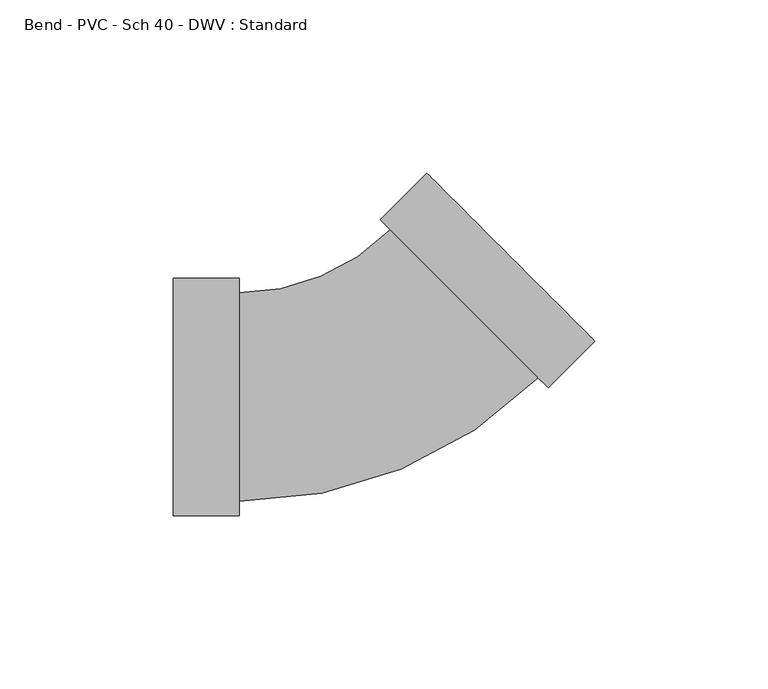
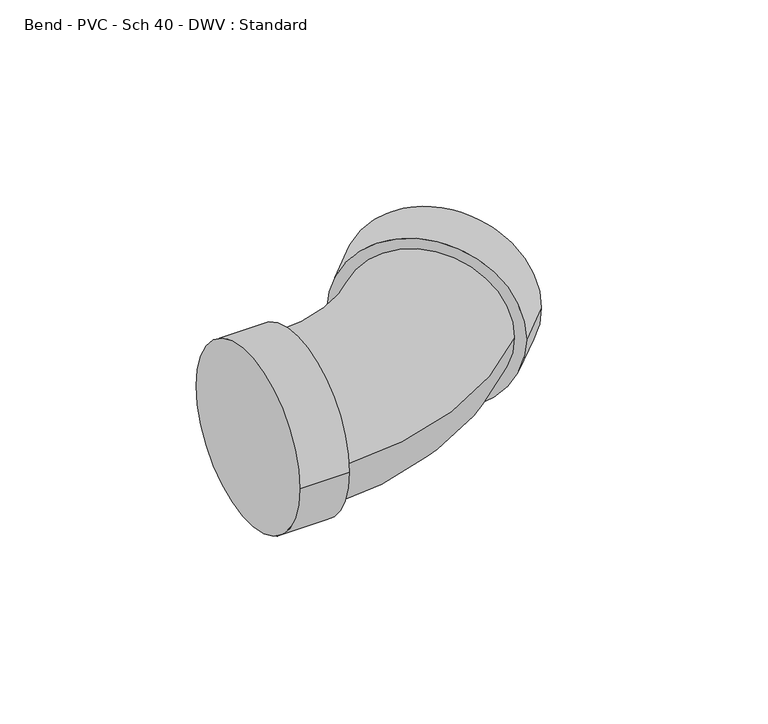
"""IFC4 building model written with IfcOpenShell, lengths in millimetres: pipe fitting geometry, Bend - PVC - Sch 40 - DWV : Standard."""

import ifcopenshell
import ifcopenshell.guid

model = None  # the IFC model being written
_history = None  # IfcOwnerHistory: only IFC2X3 demands one
_inside = {}  # id of a spatial element -> (the spatial element, [elements in it])
_under = {}  # id of a project, library or spatial element -> (it, [spatial elements below it])
_declared = {}  # id of a project -> (the project, [libraries it declares])
_typed = {}  # id of a type object -> (the type object, [elements of that type])
_made_of = {}  # id of a material, layer set ... -> (it, [elements and type objects made of it])


def new_model(schema):
    """Start an empty IFC model of exactly this schema.

    Asked for "IFC4X3", IfcOpenShell would pick the latest addendum, in which some entities
    have other attributes; the version numbers below select the first issue.
    IFC2X3 requires an IfcOwnerHistory on every rooted entity: one is made here for all.
    """
    global model, _history
    if schema == "IFC4X3":
        model = ifcopenshell.file(schema_version=(4, 3, 0, 0))
    else:
        model = ifcopenshell.file(schema=schema)
    _inside.clear()
    _under.clear()
    _declared.clear()
    _typed.clear()
    _made_of.clear()
    _history = None
    if model.schema == "IFC2X3":
        org = make("IfcOrganization", Name="unknown")
        user = make(
            "IfcPersonAndOrganization",
            ThePerson=make("IfcPerson", FamilyName="unknown"),
            TheOrganization=org,
        )
        app = make(
            "IfcApplication",
            ApplicationDeveloper=org,
            Version="unknown",
            ApplicationFullName="unknown",
            ApplicationIdentifier="unknown",
        )
        _history = make(
            "IfcOwnerHistory",
            OwningUser=user,
            OwningApplication=app,
            ChangeAction="ADDED",
            CreationDate=0,
        )
    return model


def make(cls, **values):
    """One entity of the class cls with the attributes given. An attribute that is None is left unset."""
    return model.create_entity(
        cls, **{name: value for name, value in values.items() if value is not None}
    )


def rooted(cls, **values):
    """An entity with a GlobalId (a new one), such as an element, a storey or a relation."""
    return make(cls, GlobalId=ifcopenshell.guid.new(), OwnerHistory=_history, **values)


def si_unit(unit_type, name, prefix=None):
    """IfcSIUnit, for example si_unit("LENGTHUNIT", "METRE", prefix="MILLI")."""
    return make("IfcSIUnit", UnitType=unit_type, Prefix=prefix, Name=name)


def assignment(units):
    """IfcUnitAssignment: the units of a project."""
    return None if units is None else make("IfcUnitAssignment", Units=units)


def point(xyz):
    """IfcCartesianPoint."""
    return None if xyz is None else make("IfcCartesianPoint", Coordinates=xyz)


def direction(xyz):
    """IfcDirection."""
    return None if xyz is None else make("IfcDirection", DirectionRatios=xyz)


def frame(location, z_axis=None, x_axis=None):
    """IfcAxis2Placement3D, a coordinate frame: its origin and axes. An axis left out is left unset."""
    return make(
        "IfcAxis2Placement3D",
        Location=point(location),
        Axis=direction(z_axis),
        RefDirection=direction(x_axis),
    )


def origin():
    """The frame at (0, 0, 0) with its axes left unset."""
    return frame((0.0, 0.0, 0.0))


def place(relative_to, where):
    """IfcLocalPlacement: puts the frame where relative to a parent placement (None: the world)."""
    return make(
        "IfcLocalPlacement", PlacementRelTo=relative_to, RelativePlacement=where
    )


def context(
    kind, dimensions, precision=None, world=None, true_north=None, identifier=None
):
    """IfcGeometricRepresentationContext, for example the 3D "Model" context."""
    return make(
        "IfcGeometricRepresentationContext",
        ContextIdentifier=identifier,
        ContextType=kind,
        CoordinateSpaceDimension=dimensions,
        Precision=precision,
        WorldCoordinateSystem=world,
        TrueNorth=true_north,
    )


def project(units=None, contexts=None):
    """IfcProject with its units and contexts."""
    return rooted(
        "IfcProject",
        Name="project",
        RepresentationContexts=contexts,
        UnitsInContext=assignment(units),
    )


def spatial(cls, under=None, at=None, **own):
    """A site, building, storey or space (cls), placed at a placement, below another one or the project."""
    s = rooted(cls, ObjectPlacement=at, **own)
    if under is not None:
        _under.setdefault(under.id(), (under, []))[1].append(s)
    return s


def circle_curve(where, radius):
    """IfcCircle in the frame where."""
    return make("IfcCircle", Position=where, Radius=radius)


def ellipse_curve(where, semi_axis1, semi_axis2):
    """IfcEllipse in the frame where."""
    return make(
        "IfcEllipse", Position=where, SemiAxis1=semi_axis1, SemiAxis2=semi_axis2
    )


def trimmed(basis, trim1, trim2, sense, master):
    """IfcTrimmedCurve: the piece of a basis curve between two trims."""
    return make(
        "IfcTrimmedCurve",
        BasisCurve=basis,
        Trim1=trim1,
        Trim2=trim2,
        SenseAgreement=sense,
        MasterRepresentation=master,
    )


def shape(context_of_items, identifier, shape_type, items):
    """IfcShapeRepresentation: the items that make up one representation, for example the "Body"."""
    return make(
        "IfcShapeRepresentation",
        ContextOfItems=context_of_items,
        RepresentationIdentifier=identifier,
        RepresentationType=shape_type,
        Items=items,
    )


def source(mapping_origin, context_of_items, identifier, shape_type, items):
    """IfcRepresentationMap: a shape defined once, which mapped items show again and again."""
    return make(
        "IfcRepresentationMap",
        MappingOrigin=mapping_origin,
        MappedRepresentation=shape(context_of_items, identifier, shape_type, items),
    )


def transform(
    local_origin,
    x_axis=None,
    y_axis=None,
    z_axis=None,
    scale=None,
    scale2=None,
    scale3=None,
    uniform=True,
):
    """IfcCartesianTransformationOperator3D, or its non-uniform kind. x_axis, y_axis, z_axis: its Axis1, 2, 3."""
    if uniform:
        return make(
            "IfcCartesianTransformationOperator3D",
            Axis1=direction(x_axis),
            Axis2=direction(y_axis),
            LocalOrigin=point(local_origin),
            Scale=scale,
            Axis3=direction(z_axis),
        )
    return make(
        "IfcCartesianTransformationOperator3DnonUniform",
        Axis1=direction(x_axis),
        Axis2=direction(y_axis),
        LocalOrigin=point(local_origin),
        Scale=scale,
        Axis3=direction(z_axis),
        Scale2=scale2,
        Scale3=scale3,
    )


def mapped(mapping_source, mapping_target):
    """IfcMappedItem: shows the shape of a source again, moved by a transform."""
    return make(
        "IfcMappedItem", MappingSource=mapping_source, MappingTarget=mapping_target
    )


def made_of(thing, what):
    """Note that an element or type object is made of a material, layer set ...; save() writes the relation."""
    if what is not None:
        _made_of.setdefault(what.id(), (what, []))[1].append(thing)
    return thing


def element(
    cls,
    number,
    at=None,
    inside=None,
    cuts=None,
    type_object=None,
    material=None,
    context=None,
    identifier="Body",
    shape_type=None,
    held_by="IfcProductDefinitionShape",
    body=None,
    shapes=None,
    **own,
):
    """One element of the class cls, such as IfcWall. Its Tag is "e" and its number.

    at: its placement. inside: the storey or other place that contains it. cuts: it is an
    opening in that element (IfcRelVoidsElement). A single representation is given by context,
    identifier, shape_type and body (its items); several are given by shapes. held_by: the class
    of the entity that holds the representations. save() writes the other relations.
    """
    e = rooted(cls, Tag="e%d" % number, ObjectPlacement=at, **own)
    if body is not None:
        shapes = [shape(context, identifier, shape_type, body)]
    if shapes is not None:
        e.Representation = make(held_by, Representations=shapes)
    if inside is not None:
        _inside.setdefault(inside.id(), (inside, []))[1].append(e)
    if cuts is not None:
        rooted(
            "IfcRelVoidsElement", RelatingBuildingElement=cuts, RelatedOpeningElement=e
        )
    if type_object is not None:
        _typed.setdefault(type_object.id(), (type_object, []))[1].append(e)
    return made_of(e, material)


def aggregate(whole, parts):
    """IfcRelAggregates: a whole, such as a stair, and the parts it consists of."""
    return rooted("IfcRelAggregates", RelatingObject=whole, RelatedObjects=parts)


def save(model, path):
    """Write the relations noted so far, then the file.

    IfcRelAggregates (storeys below a building ...), IfcRelContainedInSpatialStructure (elements
    in a storey), IfcRelDefinesByType, IfcRelAssociatesMaterial and IfcRelDeclares: one each for
    every whole, place, type object, material and project.
    """
    for whole, parts in _under.values():
        aggregate(whole, parts)
    for where, things in _inside.values():
        rooted(
            "IfcRelContainedInSpatialStructure",
            RelatedElements=things,
            RelatingStructure=where,
        )
    for kind, things in _typed.values():
        rooted("IfcRelDefinesByType", RelatedObjects=things, RelatingType=kind)
    for what, things in _made_of.values():
        rooted("IfcRelAssociatesMaterial", RelatedObjects=things, RelatingMaterial=what)
    for by, libraries in _declared.values():
        rooted("IfcRelDeclares", RelatingContext=by, RelatedDefinitions=libraries)
    model.write(path)


def plane_surface(at):
    """IfcPlane: the flat surface through the origin of the frame at, square to its z axis."""
    return make("IfcPlane", Position=at)


def cylinder_surface(at, radius):
    """IfcCylindricalSurface: all points at the distance radius from the z axis of the frame at."""
    return make("IfcCylindricalSurface", Position=at, Radius=radius)


def revolved_surface(curve, axis_point, axis_direction):
    """IfcSurfaceOfRevolution: the curve turned about the line through axis_point along axis_direction."""
    return make(
        "IfcSurfaceOfRevolution",
        SweptCurve=make("IfcArbitraryOpenProfileDef", ProfileType="CURVE", Curve=curve),
        AxisPosition=make("IfcAxis1Placement", Location=point(axis_point), Axis=direction(axis_direction)),
    )


def advanced_brep(points, edges, surfaces, faces):
    """IfcAdvancedBrep: a solid bounded by faces that lie on surfaces and meet in shared edges.

    An edge is (start, end): straight between two places in points (the first is 0);
    or (start, end, curve); or (start, end, curve, False) where it runs against its curve.
    A face is (place in surfaces, loops), or (place, loops, False) where it looks against
    its surface's normal. A loop lists edges by number (the first is 1), with a minus sign
    where the edge is run from its end to its start. The first loop is the outer one.
    """
    corners = [point(p) for p in points]
    vertices = [make("IfcVertexPoint", VertexGeometry=c) for c in corners]
    made = []
    for start, end, *more in edges:
        made.append(
            make(
                "IfcEdgeCurve",
                EdgeStart=vertices[start],
                EdgeEnd=vertices[end],
                EdgeGeometry=more[0] if more else make("IfcPolyline", Points=[corners[start], corners[end]]),
                SameSense=more[1] if len(more) > 1 else True,
            )
        )
    hull = []
    for where, loops, *sense in faces:
        bounds = []
        for j, loop in enumerate(loops):
            ring = [make("IfcOrientedEdge", EdgeElement=made[abs(k) - 1], Orientation=k > 0) for k in loop]
            bounds.append(
                make(
                    "IfcFaceOuterBound" if j == 0 else "IfcFaceBound",
                    Bound=make("IfcEdgeLoop", EdgeList=ring),
                    Orientation=True,
                )
            )
        hull.append(make("IfcAdvancedFace", Bounds=bounds, FaceSurface=surfaces[where], SameSense=sense[0] if sense else True))
    return make("IfcAdvancedBrep", Outer=make("IfcClosedShell", CfsFaces=hull))


def bend_pvc_sch_40_dwv_standard_614e1da6(model_context):
    return source(origin(), model_context, "Body", "AdvancedBrep", [
        advanced_brep(
        [(-57.15, -34.3154, 0.0), (-57.15, 34.3154, 0.0), (-38.1, -34.3154, 0.0), (-38.1, 34.3154, 0.0), (-38.1, -30.1625, 0.0), (-38.1, 30.1625, 0.0), (5.6143444, 48.2686808, 0.0), (48.2690725, 5.6109757, 0.0), (51.2055138, 2.6743295, 0.0), (2.6779032, 51.205327, 0.0), (64.676368, 16.1442436, 0.0), (16.1487574, 64.6752411, 0.0)],
        [
            (0, 1, circle_curve(frame((-57.15, 0.0, 0.0), z_axis=(-1.0, 0.0, 0.0), x_axis=(0.0, 1.0, 0.0)), 34.3154)),
            (1, 0, circle_curve(frame((-57.15, 0.0, 0.0), z_axis=(-1.0, 0.0, 0.0), x_axis=(0.0, 1.0, 0.0)), 34.3154)),
            (2, 3, circle_curve(frame((-38.1, 0.0, 0.0), z_axis=(1.0, 0.0, 0.0), x_axis=(0.0, 1.0, 0.0)), 34.3154)),
            (3, 2, circle_curve(frame((-38.1, 0.0, 0.0), z_axis=(1.0, 0.0, 0.0), x_axis=(0.0, 1.0, 0.0)), 34.3154)),
            (4, 5, circle_curve(frame((-38.1, 0.0, 0.0), z_axis=(-1.0, 0.0, 0.0), x_axis=(0.0, 1.0, 0.0)), 30.1625)),
            (5, 4, circle_curve(frame((-38.1, 0.0, 0.0), z_axis=(-1.0, 0.0, 0.0), x_axis=(0.0, 1.0, 0.0)), 30.1625)),
            (0, 2),
            (3, 1),
            (6, 5, circle_curve(frame((-38.1, 91.9860762, 0.0), z_axis=(0.0, 0.0, -1.0), x_axis=(0.0, -1.0, 0.0)), 61.8235762)),
            (4, 7, circle_curve(frame((-38.1, 91.9860762, 0.0), z_axis=(0.0, 0.0, 1.0), x_axis=(0.0, -1.0, 0.0)), 122.1485762)),
            (7, 6, circle_curve(frame((26.9417085, 26.9398282, 0.0), z_axis=(-0.7071314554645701, -0.7070821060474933, 0.0), x_axis=(-0.7070821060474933, 0.7071314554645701, 0.0)), 30.1625)),
            (6, 7, circle_curve(frame((26.9417085, 26.9398282, 0.0), z_axis=(-0.7071314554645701, -0.7070821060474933, 0.0), x_axis=(-0.7070821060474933, 0.7071314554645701, 0.0)), 30.1625)),
            (8, 9, circle_curve(frame((26.9417085, 26.9398282, 0.0), z_axis=(-0.7071314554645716, -0.7070821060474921, 0.0), x_axis=(-0.7070821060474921, 0.7071314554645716, 0.0)), 34.3154)),
            (9, 8, circle_curve(frame((26.9417085, 26.9398282, 0.0), z_axis=(-0.7071314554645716, -0.7070821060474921, 0.0), x_axis=(-0.7070821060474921, 0.7071314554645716, 0.0)), 34.3154)),
            (10, 11, circle_curve(frame((40.4125627, 40.4097424, 0.0), z_axis=(0.7071314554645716, 0.7070821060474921, 0.0), x_axis=(-0.7070821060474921, 0.7071314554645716, 0.0)), 34.3154)),
            (11, 10, circle_curve(frame((40.4125627, 40.4097424, 0.0), z_axis=(0.7071314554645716, 0.7070821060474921, 0.0), x_axis=(-0.7070821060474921, 0.7071314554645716, 0.0)), 34.3154)),
            (8, 10),
            (11, 9),
        ],
        [
            plane_surface(frame((-57.15, 0.0, 0.0), z_axis=(-1.0, 0.0, 0.0), x_axis=(0.0, 0.0, 1.0))),
            plane_surface(frame((-38.1, 0.0, 0.0), z_axis=(1.0, 0.0, 0.0), x_axis=(0.0, 0.0, 1.0))),
            cylinder_surface(frame((-57.15, 0.0, 0.0), z_axis=(-1.0, 0.0, 0.0), x_axis=(0.0, 1.0, 0.0)), 34.3154),
            revolved_surface(trimmed(ellipse_curve(frame((-38.1, 0.0, 0.0), z_axis=(-1.0, 0.0, 0.0), x_axis=(0.0, 1.0, 0.0)), 30.1625, 30.1625), [point((-38.1, -30.1625, 0.0))], [point((-38.1, 30.1625, 0.0))], True, "CARTESIAN"), (-38.1, 91.9860762, 0.0), (0.0, 0.0, 1.0)),
            revolved_surface(trimmed(ellipse_curve(frame((-38.1, 0.0, 0.0), z_axis=(-1.0, 0.0, 0.0), x_axis=(0.0, 1.0, 0.0)), 30.1625, 30.1625), [point((-38.1, 30.1625, 0.0))], [point((-38.1, -30.1625, 0.0))], True, "CARTESIAN"), (-38.1, 91.9860762, 0.0), (0.0, 0.0, 1.0)),
            plane_surface(frame((26.9417085, 26.9398282, 0.0), z_axis=(-0.7071314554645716, -0.7070821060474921, 0.0), x_axis=(0.0, 0.0, 1.0))),
            plane_surface(frame((40.4125627, 40.4097424, 0.0), z_axis=(0.7071314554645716, 0.7070821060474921, 0.0), x_axis=(0.0, 0.0, 1.0))),
            cylinder_surface(frame((26.9417085, 26.9398282, 0.0), z_axis=(-0.7071314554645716, -0.7070821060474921, 0.0), x_axis=(-0.7070821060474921, 0.7071314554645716, 0.0)), 34.3154),
        ],
        [
            (0, [[1, 2]]),
            (1, [[3, 4], [5, 6]]),
            (2, [[-1, 7, -4, 8]]),
            (2, [[-2, -8, -3, -7]]),
            (3, [[9, -5, 10, 11]]),
            (4, [[-9, 12, -10, -6]]),
            (5, [[13, 14], [-11, -12]]),
            (6, [[15, 16]]),
            (7, [[-13, 17, -16, 18]]),
            (7, [[-14, -18, -15, -17]]),
        ],
    ),
    ])


if __name__ == "__main__":
    model = new_model("IFC4")
    model_context = context("Model", 3, world=origin())
    ifc_project = project(units=[si_unit("LENGTHUNIT", "METRE", prefix="MILLI")], contexts=[model_context])
    site = spatial("IfcSite", under=ifc_project)
    building = spatial("IfcBuilding", under=site)
    placement = place(None, origin())
    bend_pvc_sch_40_dwv_standard_shape = bend_pvc_sch_40_dwv_standard_614e1da6(model_context)
    element("IfcPipeFitting", 1, ObjectType="Bend - PVC - Sch 40 - DWV : Standard", at=placement, inside=building, context=model_context, shape_type="MappedRepresentation", body=[
        mapped(bend_pvc_sch_40_dwv_standard_shape, transform((0.0, 0.0, 0.0), x_axis=(1.0, 0.0, 0.0), y_axis=(0.0, 1.0, 0.0), z_axis=(0.0, 0.0, 1.0))),
    ])
    save(model, "model.ifc")
